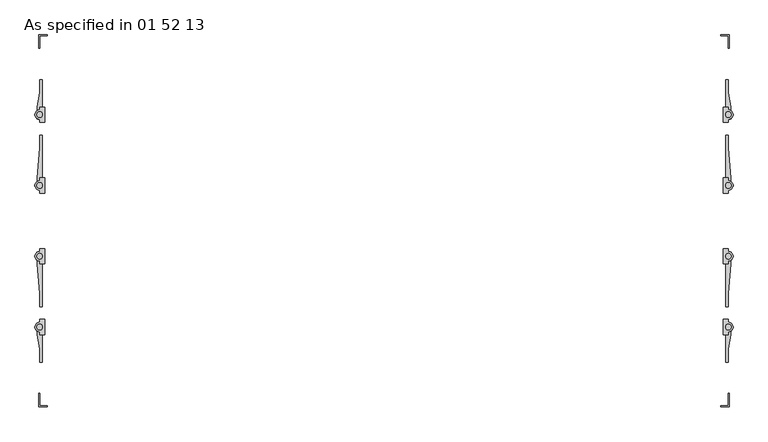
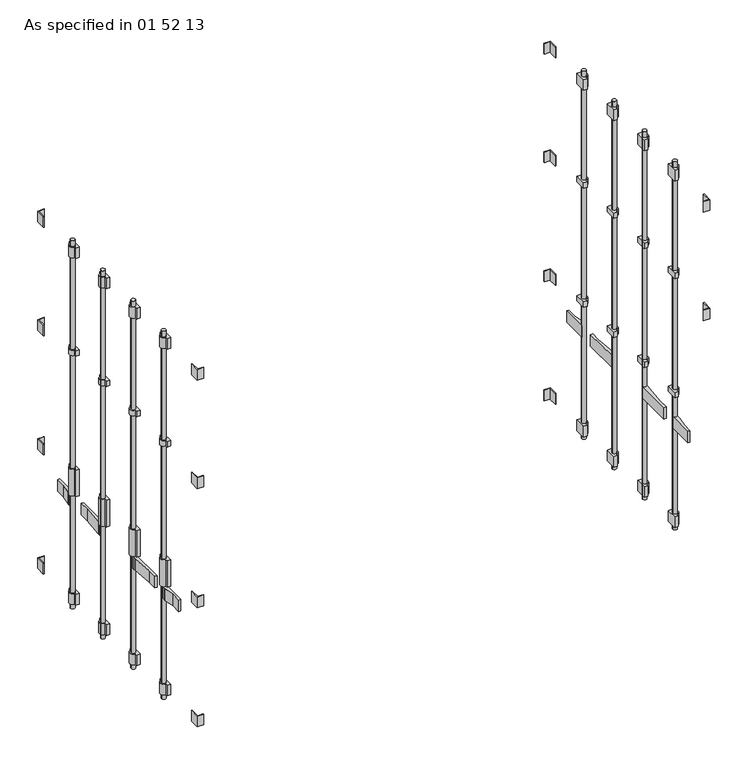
"""IFC4 building model written with IfcOpenShell, lengths in millimetres: proxy geometry, Conteneur de rangement : As specified in 01 52 13."""

from ifc_helpers import new_model, si_unit, point, frame, frame_2d, origin, place, context, project, spatial, polyline, circle_curve, trimmed, segment, composite_curve, outline, extrude, source, transform, mapped, element, save


def as_specified_in_01_52_13_0041e000(model_context):
    return source(origin(), model_context, "Body", "SweptSolid", [
        extrude(outline(polyline([(18745.0892185, 11825.6358114), (18745.0892185, 11590.6858114), (18711.1388358, 11590.6858114), (18711.1388358, 11622.4358114), (18711.1388358, 11642.658497), (18726.0392185, 11736.7358114), (18726.0392185, 11825.6358114), (18745.0892185, 11825.6358114)])), frame((0.0, 0.0, 1041.4), z_axis=(0.0, 0.0, 1.0), x_axis=(1.0, 0.0, 0.0)), (0.0, 0.0, 1.0), 110.0666667),
        extrude(outline(polyline([(18745.0892185, 11453.1024781), (18745.0892185, 11116.5524781), (18711.1388358, 11116.5524781), (18711.1388358, 11148.3024781), (18711.1388358, 11168.5251636), (18726.0392185, 11364.2024781), (18726.0392185, 11453.1024781), (18745.0892185, 11453.1024781)])), frame((0.0, 0.0, 1041.4), z_axis=(0.0, 0.0, 1.0), x_axis=(1.0, 0.0, 0.0)), (0.0, 0.0, 1.0), 110.0666667),
        extrude(outline(polyline([(18745.0892185, 9933.3358114), (18726.0392185, 9933.3358114), (18726.0392185, 10022.2358114), (18711.1388358, 10116.3131258), (18711.1388358, 10136.5358114), (18711.1388358, 10168.2858114), (18745.0892185, 10168.2858114), (18745.0892185, 9933.3358114)])), frame((0.0, 0.0, 1041.4), z_axis=(0.0, 0.0, 1.0), x_axis=(1.0, 0.0, 0.0)), (0.0, 0.0, 1.0), 110.0666667),
        extrude(outline(polyline([(18745.0892185, 10305.8691447), (18726.0392185, 10305.8691447), (18726.0392185, 10394.7691447), (18711.1388358, 10590.4464592), (18711.1388358, 10610.6691447), (18711.1388358, 10642.4191447), (18745.0892185, 10642.4191447), (18745.0892185, 10305.8691447)])), frame((0.0, 0.0, 1041.4), z_axis=(0.0, 0.0, 1.0), x_axis=(1.0, 0.0, 0.0)), (0.0, 0.0, 1.0), 110.0666667),
        extrude(outline(polyline([(23317.0892185, 11825.6358114), (23336.1392185, 11825.6358114), (23336.1392185, 11736.7358114), (23351.0396013, 11642.658497), (23351.0396013, 11622.4358114), (23351.0396013, 11590.6858114), (23317.0892185, 11590.6858114), (23317.0892185, 11825.6358114)])), frame((0.0, 0.0, 1041.4), z_axis=(0.0, 0.0, 1.0), x_axis=(1.0, 0.0, 0.0)), (0.0, 0.0, 1.0), 110.0666667),
        extrude(outline(polyline([(23317.0892185, 11453.1024781), (23336.1392185, 11453.1024781), (23336.1392185, 11364.2024781), (23351.0396013, 11168.5251636), (23351.0396013, 11148.3024781), (23351.0396013, 11116.5524781), (23317.0892185, 11116.5524781), (23317.0892185, 11453.1024781)])), frame((0.0, 0.0, 1041.4), z_axis=(0.0, 0.0, 1.0), x_axis=(1.0, 0.0, 0.0)), (0.0, 0.0, 1.0), 110.0666667),
        extrude(outline(polyline([(23317.0892185, 9933.3358114), (23317.0892185, 10168.2858114), (23351.0396013, 10168.2858114), (23351.0396013, 10136.5358114), (23351.0396013, 10116.3131258), (23336.1392185, 10022.2358114), (23336.1392185, 9933.3358114), (23317.0892185, 9933.3358114)])), frame((0.0, 0.0, 1041.4), z_axis=(0.0, 0.0, 1.0), x_axis=(1.0, 0.0, 0.0)), (0.0, 0.0, 1.0), 110.0666667),
        extrude(outline(polyline([(23317.0892185, 10305.8691447), (23317.0892185, 10642.4191447), (23351.0396013, 10642.4191447), (23351.0396013, 10610.6691447), (23351.0396013, 10590.4464592), (23336.1392185, 10394.7691447), (23336.1392185, 10305.8691447), (23317.0892185, 10305.8691447)])), frame((0.0, 0.0, 1041.4), z_axis=(0.0, 0.0, 1.0), x_axis=(1.0, 0.0, 0.0)), (0.0, 0.0, 1.0), 110.0666667),
        extrude(outline(composite_curve([segment(polyline([(23336.1392185, 11641.4858114), (23336.1392185, 11622.4358114)]), True, "CONTINUOUS"), segment(trimmed(circle_curve(frame_2d((23336.1392185, 11590.6858114)), 31.75), [point((23336.1392185, 11622.4358114))], [point((23336.1392185, 11558.9358114))], False, "CARTESIAN"), True, "CONTINUOUS"), segment(polyline([(23336.1392185, 11558.9358114), (23336.1392185, 11539.8858114), (23303.6188344, 11539.8858114), (23303.6188344, 11641.4858114), (23336.1392185, 11641.4858114)]), True, "CONTINUOUS")], self_intersect=False), holes=[composite_curve([segment(trimmed(circle_curve(frame_2d((23336.1392185, 11590.6858114)), 19.05), [point((23317.0892185, 11590.6858114))], [point((23355.1892185, 11590.6858114))], True, "CARTESIAN"), True, "CONTINUOUS"), segment(trimmed(circle_curve(frame_2d((23336.1392185, 11590.6858114)), 19.05), [point((23355.1892185, 11590.6858114))], [point((23317.0892185, 11590.6858114))], True, "CARTESIAN"), True, "CONTINUOUS")], self_intersect=False)]), frame((0.0, 0.0, 2497.6666667), z_axis=(0.0, 0.0, 1.0), x_axis=(1.0, 0.0, 0.0)), (0.0, 0.0, 1.0), 50.8),
        extrude(outline(composite_curve([segment(polyline([(23336.1392185, 11167.3524781), (23336.1392185, 11148.3024781)]), True, "CONTINUOUS"), segment(trimmed(circle_curve(frame_2d((23336.1392185, 11116.5524781)), 31.75), [point((23336.1392185, 11148.3024781))], [point((23336.1392185, 11084.8024781))], False, "CARTESIAN"), True, "CONTINUOUS"), segment(polyline([(23336.1392185, 11084.8024781), (23336.1392185, 11065.7524781), (23303.6188344, 11065.7524781), (23303.6188344, 11167.3524781), (23336.1392185, 11167.3524781)]), True, "CONTINUOUS")], self_intersect=False), holes=[composite_curve([segment(trimmed(circle_curve(frame_2d((23336.1392185, 11116.5524781)), 19.05), [point((23317.0892185, 11116.5524781))], [point((23355.1892185, 11116.5524781))], True, "CARTESIAN"), True, "CONTINUOUS"), segment(trimmed(circle_curve(frame_2d((23336.1392185, 11116.5524781)), 19.05), [point((23355.1892185, 11116.5524781))], [point((23317.0892185, 11116.5524781))], True, "CARTESIAN"), True, "CONTINUOUS")], self_intersect=False)]), frame((0.0, 0.0, 2497.6666667), z_axis=(0.0, 0.0, 1.0), x_axis=(1.0, 0.0, 0.0)), (0.0, 0.0, 1.0), 50.8),
        extrude(outline(composite_curve([segment(polyline([(23336.1392185, 10693.2191447), (23336.1392185, 10674.1691447)]), True, "CONTINUOUS"), segment(trimmed(circle_curve(frame_2d((23336.1392185, 10642.4191447)), 31.75), [point((23336.1392185, 10674.1691447))], [point((23336.1392185, 10610.6691447))], False, "CARTESIAN"), True, "CONTINUOUS"), segment(polyline([(23336.1392185, 10610.6691447), (23336.1392185, 10591.6191447), (23303.6188344, 10591.6191447), (23303.6188344, 10693.2191447), (23336.1392185, 10693.2191447)]), True, "CONTINUOUS")], self_intersect=False), holes=[composite_curve([segment(trimmed(circle_curve(frame_2d((23336.1392185, 10642.4191447)), 19.05), [point((23317.0892185, 10642.4191447))], [point((23355.1892185, 10642.4191447))], True, "CARTESIAN"), True, "CONTINUOUS"), segment(trimmed(circle_curve(frame_2d((23336.1392185, 10642.4191447)), 19.05), [point((23355.1892185, 10642.4191447))], [point((23317.0892185, 10642.4191447))], True, "CARTESIAN"), True, "CONTINUOUS")], self_intersect=False)]), frame((0.0, 0.0, 2497.6666667), z_axis=(0.0, 0.0, 1.0), x_axis=(1.0, 0.0, 0.0)), (0.0, 0.0, 1.0), 50.8),
        extrude(outline(composite_curve([segment(polyline([(23336.1392185, 10219.0858114), (23336.1392185, 10200.0358114)]), True, "CONTINUOUS"), segment(trimmed(circle_curve(frame_2d((23336.1392185, 10168.2858114)), 31.75), [point((23336.1392185, 10200.0358114))], [point((23336.1392185, 10136.5358114))], False, "CARTESIAN"), True, "CONTINUOUS"), segment(polyline([(23336.1392185, 10136.5358114), (23336.1392185, 10117.4858114), (23303.6188344, 10117.4858114), (23303.6188344, 10219.0858114), (23336.1392185, 10219.0858114)]), True, "CONTINUOUS")], self_intersect=False), holes=[composite_curve([segment(trimmed(circle_curve(frame_2d((23336.1392185, 10168.2858114)), 19.05), [point((23317.0892185, 10168.2858114))], [point((23355.1892185, 10168.2858114))], True, "CARTESIAN"), True, "CONTINUOUS"), segment(trimmed(circle_curve(frame_2d((23336.1392185, 10168.2858114)), 19.05), [point((23355.1892185, 10168.2858114))], [point((23317.0892185, 10168.2858114))], True, "CARTESIAN"), True, "CONTINUOUS")], self_intersect=False)]), frame((0.0, 0.0, 2497.6666667), z_axis=(0.0, 0.0, 1.0), x_axis=(1.0, 0.0, 0.0)), (0.0, 0.0, 1.0), 50.8),
        extrude(outline(composite_curve([segment(polyline([(23336.1392185, 11641.4858114), (23336.1392185, 11622.4358114)]), True, "CONTINUOUS"), segment(trimmed(circle_curve(frame_2d((23336.1392185, 11590.6858114)), 31.75), [point((23336.1392185, 11622.4358114))], [point((23336.1392185, 11558.9358114))], False, "CARTESIAN"), True, "CONTINUOUS"), segment(polyline([(23336.1392185, 11558.9358114), (23336.1392185, 11539.8858114), (23303.6188344, 11539.8858114), (23303.6188344, 11641.4858114), (23336.1392185, 11641.4858114)]), True, "CONTINUOUS")], self_intersect=False), holes=[composite_curve([segment(trimmed(circle_curve(frame_2d((23336.1392185, 11590.6858114)), 19.05), [point((23317.0892185, 11590.6858114))], [point((23355.1892185, 11590.6858114))], True, "CARTESIAN"), True, "CONTINUOUS"), segment(trimmed(circle_curve(frame_2d((23336.1392185, 11590.6858114)), 19.05), [point((23355.1892185, 11590.6858114))], [point((23317.0892185, 11590.6858114))], True, "CARTESIAN"), True, "CONTINUOUS")], self_intersect=False)]), frame((0.0, 0.0, 1363.1333333), z_axis=(0.0, 0.0, 1.0), x_axis=(1.0, 0.0, 0.0)), (0.0, 0.0, 1.0), 50.8),
        extrude(outline(composite_curve([segment(polyline([(23336.1392185, 11167.3524781), (23336.1392185, 11148.3024781)]), True, "CONTINUOUS"), segment(trimmed(circle_curve(frame_2d((23336.1392185, 11116.5524781)), 31.75), [point((23336.1392185, 11148.3024781))], [point((23336.1392185, 11084.8024781))], False, "CARTESIAN"), True, "CONTINUOUS"), segment(polyline([(23336.1392185, 11084.8024781), (23336.1392185, 11065.7524781), (23303.6188344, 11065.7524781), (23303.6188344, 11167.3524781), (23336.1392185, 11167.3524781)]), True, "CONTINUOUS")], self_intersect=False), holes=[composite_curve([segment(trimmed(circle_curve(frame_2d((23336.1392185, 11116.5524781)), 19.05), [point((23317.0892185, 11116.5524781))], [point((23355.1892185, 11116.5524781))], True, "CARTESIAN"), True, "CONTINUOUS"), segment(trimmed(circle_curve(frame_2d((23336.1392185, 11116.5524781)), 19.05), [point((23355.1892185, 11116.5524781))], [point((23317.0892185, 11116.5524781))], True, "CARTESIAN"), True, "CONTINUOUS")], self_intersect=False)]), frame((0.0, 0.0, 1363.1333333), z_axis=(0.0, 0.0, 1.0), x_axis=(1.0, 0.0, 0.0)), (0.0, 0.0, 1.0), 50.8),
        extrude(outline(composite_curve([segment(polyline([(23336.1392185, 10693.2191447), (23336.1392185, 10674.1691447)]), True, "CONTINUOUS"), segment(trimmed(circle_curve(frame_2d((23336.1392185, 10642.4191447)), 31.75), [point((23336.1392185, 10674.1691447))], [point((23336.1392185, 10610.6691447))], False, "CARTESIAN"), True, "CONTINUOUS"), segment(polyline([(23336.1392185, 10610.6691447), (23336.1392185, 10591.6191447), (23303.6188344, 10591.6191447), (23303.6188344, 10693.2191447), (23336.1392185, 10693.2191447)]), True, "CONTINUOUS")], self_intersect=False), holes=[composite_curve([segment(trimmed(circle_curve(frame_2d((23336.1392185, 10642.4191447)), 19.05), [point((23317.0892185, 10642.4191447))], [point((23355.1892185, 10642.4191447))], True, "CARTESIAN"), True, "CONTINUOUS"), segment(trimmed(circle_curve(frame_2d((23336.1392185, 10642.4191447)), 19.05), [point((23355.1892185, 10642.4191447))], [point((23317.0892185, 10642.4191447))], True, "CARTESIAN"), True, "CONTINUOUS")], self_intersect=False)]), frame((0.0, 0.0, 1363.1333333), z_axis=(0.0, 0.0, 1.0), x_axis=(1.0, 0.0, 0.0)), (0.0, 0.0, 1.0), 50.8),
        extrude(outline(composite_curve([segment(polyline([(23336.1392185, 10219.0858114), (23336.1392185, 10200.0358114)]), True, "CONTINUOUS"), segment(trimmed(circle_curve(frame_2d((23336.1392185, 10168.2858114)), 31.75), [point((23336.1392185, 10200.0358114))], [point((23336.1392185, 10136.5358114))], False, "CARTESIAN"), True, "CONTINUOUS"), segment(polyline([(23336.1392185, 10136.5358114), (23336.1392185, 10117.4858114), (23303.6188344, 10117.4858114), (23303.6188344, 10219.0858114), (23336.1392185, 10219.0858114)]), True, "CONTINUOUS")], self_intersect=False), holes=[composite_curve([segment(trimmed(circle_curve(frame_2d((23336.1392185, 10168.2858114)), 19.05), [point((23317.0892185, 10168.2858114))], [point((23355.1892185, 10168.2858114))], True, "CARTESIAN"), True, "CONTINUOUS"), segment(trimmed(circle_curve(frame_2d((23336.1392185, 10168.2858114)), 19.05), [point((23355.1892185, 10168.2858114))], [point((23317.0892185, 10168.2858114))], True, "CARTESIAN"), True, "CONTINUOUS")], self_intersect=False)]), frame((0.0, 0.0, 1363.1333333), z_axis=(0.0, 0.0, 1.0), x_axis=(1.0, 0.0, 0.0)), (0.0, 0.0, 1.0), 50.8),
        extrude(outline(composite_curve([segment(polyline([(18726.0392185, 11641.4858114), (18758.5596027, 11641.4858114), (18758.5596027, 11539.8858114), (18726.0392185, 11539.8858114), (18726.0392185, 11558.9358114)]), True, "CONTINUOUS"), segment(trimmed(circle_curve(frame_2d((18726.0392185, 11590.6858114)), 31.75), [point((18726.0392185, 11558.9358114))], [point((18726.0392185, 11622.4358114))], False, "CARTESIAN"), True, "CONTINUOUS"), segment(polyline([(18726.0392185, 11622.4358114), (18726.0392185, 11641.4858114)]), True, "CONTINUOUS")], self_intersect=False), holes=[composite_curve([segment(trimmed(circle_curve(frame_2d((18726.0392185, 11590.6858114)), 19.05), [point((18745.0892185, 11590.6858114))], [point((18706.9892185, 11590.6858114))], True, "CARTESIAN"), True, "CONTINUOUS"), segment(trimmed(circle_curve(frame_2d((18726.0392185, 11590.6858114)), 19.05), [point((18706.9892185, 11590.6858114))], [point((18745.0892185, 11590.6858114))], True, "CARTESIAN"), True, "CONTINUOUS")], self_intersect=False)]), frame((0.0, 0.0, 1159.9333333), z_axis=(0.0, 0.0, 1.0), x_axis=(1.0, 0.0, 0.0)), (0.0, 0.0, 1.0), 254.0),
        extrude(outline(composite_curve([segment(polyline([(18726.0392185, 11167.3524781), (18758.5596027, 11167.3524781), (18758.5596027, 11065.7524781), (18726.0392185, 11065.7524781), (18726.0392185, 11084.8024781)]), True, "CONTINUOUS"), segment(trimmed(circle_curve(frame_2d((18726.0392185, 11116.5524781)), 31.75), [point((18726.0392185, 11084.8024781))], [point((18726.0392185, 11148.3024781))], False, "CARTESIAN"), True, "CONTINUOUS"), segment(polyline([(18726.0392185, 11148.3024781), (18726.0392185, 11167.3524781)]), True, "CONTINUOUS")], self_intersect=False), holes=[composite_curve([segment(trimmed(circle_curve(frame_2d((18726.0392185, 11116.5524781)), 19.05), [point((18745.0892185, 11116.5524781))], [point((18706.9892185, 11116.5524781))], True, "CARTESIAN"), True, "CONTINUOUS"), segment(trimmed(circle_curve(frame_2d((18726.0392185, 11116.5524781)), 19.05), [point((18706.9892185, 11116.5524781))], [point((18745.0892185, 11116.5524781))], True, "CARTESIAN"), True, "CONTINUOUS")], self_intersect=False)]), frame((0.0, 0.0, 1159.9333333), z_axis=(0.0, 0.0, 1.0), x_axis=(1.0, 0.0, 0.0)), (0.0, 0.0, 1.0), 254.0),
        extrude(outline(composite_curve([segment(polyline([(18726.0392185, 10693.2191447), (18758.5596027, 10693.2191447), (18758.5596027, 10591.6191447), (18726.0392185, 10591.6191447), (18726.0392185, 10610.6691447)]), True, "CONTINUOUS"), segment(trimmed(circle_curve(frame_2d((18726.0392185, 10642.4191447)), 31.75), [point((18726.0392185, 10610.6691447))], [point((18726.0392185, 10674.1691447))], False, "CARTESIAN"), True, "CONTINUOUS"), segment(polyline([(18726.0392185, 10674.1691447), (18726.0392185, 10693.2191447)]), True, "CONTINUOUS")], self_intersect=False), holes=[composite_curve([segment(trimmed(circle_curve(frame_2d((18726.0392185, 10642.4191447)), 19.05), [point((18745.0892185, 10642.4191447))], [point((18706.9892185, 10642.4191447))], True, "CARTESIAN"), True, "CONTINUOUS"), segment(trimmed(circle_curve(frame_2d((18726.0392185, 10642.4191447)), 19.05), [point((18706.9892185, 10642.4191447))], [point((18745.0892185, 10642.4191447))], True, "CARTESIAN"), True, "CONTINUOUS")], self_intersect=False)]), frame((0.0, 0.0, 1159.9333333), z_axis=(0.0, 0.0, 1.0), x_axis=(1.0, 0.0, 0.0)), (0.0, 0.0, 1.0), 254.0),
        extrude(outline(composite_curve([segment(polyline([(18726.0392185, 10219.0858114), (18758.5596027, 10219.0858114), (18758.5596027, 10117.4858114), (18726.0392185, 10117.4858114), (18726.0392185, 10136.5358114)]), True, "CONTINUOUS"), segment(trimmed(circle_curve(frame_2d((18726.0392185, 10168.2858114)), 31.75), [point((18726.0392185, 10136.5358114))], [point((18726.0392185, 10200.0358114))], False, "CARTESIAN"), True, "CONTINUOUS"), segment(polyline([(18726.0392185, 10200.0358114), (18726.0392185, 10219.0858114)]), True, "CONTINUOUS")], self_intersect=False), holes=[composite_curve([segment(trimmed(circle_curve(frame_2d((18726.0392185, 10168.2858114)), 19.05), [point((18745.0892185, 10168.2858114))], [point((18706.9892185, 10168.2858114))], True, "CARTESIAN"), True, "CONTINUOUS"), segment(trimmed(circle_curve(frame_2d((18726.0392185, 10168.2858114)), 19.05), [point((18706.9892185, 10168.2858114))], [point((18745.0892185, 10168.2858114))], True, "CARTESIAN"), True, "CONTINUOUS")], self_intersect=False)]), frame((0.0, 0.0, 1159.9333333), z_axis=(0.0, 0.0, 1.0), x_axis=(1.0, 0.0, 0.0)), (0.0, 0.0, 1.0), 254.0),
        extrude(outline(composite_curve([segment(polyline([(18726.0392185, 11641.4858114), (18758.5596027, 11641.4858114), (18758.5596027, 11539.8858114), (18726.0392185, 11539.8858114), (18726.0392185, 11558.9358114)]), True, "CONTINUOUS"), segment(trimmed(circle_curve(frame_2d((18726.0392185, 11590.6858114)), 31.75), [point((18726.0392185, 11558.9358114))], [point((18726.0392185, 11622.4358114))], False, "CARTESIAN"), True, "CONTINUOUS"), segment(polyline([(18726.0392185, 11622.4358114), (18726.0392185, 11641.4858114)]), True, "CONTINUOUS")], self_intersect=False), holes=[composite_curve([segment(trimmed(circle_curve(frame_2d((18726.0392185, 11590.6858114)), 19.05), [point((18745.0892185, 11590.6858114))], [point((18706.9892185, 11590.6858114))], True, "CARTESIAN"), True, "CONTINUOUS"), segment(trimmed(circle_curve(frame_2d((18726.0392185, 11590.6858114)), 19.05), [point((18706.9892185, 11590.6858114))], [point((18745.0892185, 11590.6858114))], True, "CARTESIAN"), True, "CONTINUOUS")], self_intersect=False)]), frame((0.0, 0.0, 2497.6666667), z_axis=(0.0, 0.0, 1.0), x_axis=(1.0, 0.0, 0.0)), (0.0, 0.0, 1.0), 50.8),
        extrude(outline(composite_curve([segment(polyline([(18726.0392185, 11167.3524781), (18758.5596027, 11167.3524781), (18758.5596027, 11065.7524781), (18726.0392185, 11065.7524781), (18726.0392185, 11084.8024781)]), True, "CONTINUOUS"), segment(trimmed(circle_curve(frame_2d((18726.0392185, 11116.5524781)), 31.75), [point((18726.0392185, 11084.8024781))], [point((18726.0392185, 11148.3024781))], False, "CARTESIAN"), True, "CONTINUOUS"), segment(polyline([(18726.0392185, 11148.3024781), (18726.0392185, 11167.3524781)]), True, "CONTINUOUS")], self_intersect=False), holes=[composite_curve([segment(trimmed(circle_curve(frame_2d((18726.0392185, 11116.5524781)), 19.05), [point((18745.0892185, 11116.5524781))], [point((18706.9892185, 11116.5524781))], True, "CARTESIAN"), True, "CONTINUOUS"), segment(trimmed(circle_curve(frame_2d((18726.0392185, 11116.5524781)), 19.05), [point((18706.9892185, 11116.5524781))], [point((18745.0892185, 11116.5524781))], True, "CARTESIAN"), True, "CONTINUOUS")], self_intersect=False)]), frame((0.0, 0.0, 2497.6666667), z_axis=(0.0, 0.0, 1.0), x_axis=(1.0, 0.0, 0.0)), (0.0, 0.0, 1.0), 50.8),
        extrude(outline(composite_curve([segment(polyline([(18726.0392185, 10693.2191447), (18758.5596027, 10693.2191447), (18758.5596027, 10591.6191447), (18726.0392185, 10591.6191447), (18726.0392185, 10610.6691447)]), True, "CONTINUOUS"), segment(trimmed(circle_curve(frame_2d((18726.0392185, 10642.4191447)), 31.75), [point((18726.0392185, 10610.6691447))], [point((18726.0392185, 10674.1691447))], False, "CARTESIAN"), True, "CONTINUOUS"), segment(polyline([(18726.0392185, 10674.1691447), (18726.0392185, 10693.2191447)]), True, "CONTINUOUS")], self_intersect=False), holes=[composite_curve([segment(trimmed(circle_curve(frame_2d((18726.0392185, 10642.4191447)), 19.05), [point((18745.0892185, 10642.4191447))], [point((18706.9892185, 10642.4191447))], True, "CARTESIAN"), True, "CONTINUOUS"), segment(trimmed(circle_curve(frame_2d((18726.0392185, 10642.4191447)), 19.05), [point((18706.9892185, 10642.4191447))], [point((18745.0892185, 10642.4191447))], True, "CARTESIAN"), True, "CONTINUOUS")], self_intersect=False)]), frame((0.0, 0.0, 2497.6666667), z_axis=(0.0, 0.0, 1.0), x_axis=(1.0, 0.0, 0.0)), (0.0, 0.0, 1.0), 50.8),
        extrude(outline(composite_curve([segment(polyline([(18726.0392185, 10219.0858114), (18758.5596027, 10219.0858114), (18758.5596027, 10117.4858114), (18726.0392185, 10117.4858114), (18726.0392185, 10136.5358114)]), True, "CONTINUOUS"), segment(trimmed(circle_curve(frame_2d((18726.0392185, 10168.2858114)), 31.75), [point((18726.0392185, 10136.5358114))], [point((18726.0392185, 10200.0358114))], False, "CARTESIAN"), True, "CONTINUOUS"), segment(polyline([(18726.0392185, 10200.0358114), (18726.0392185, 10219.0858114)]), True, "CONTINUOUS")], self_intersect=False), holes=[composite_curve([segment(trimmed(circle_curve(frame_2d((18726.0392185, 10168.2858114)), 19.05), [point((18745.0892185, 10168.2858114))], [point((18706.9892185, 10168.2858114))], True, "CARTESIAN"), True, "CONTINUOUS"), segment(trimmed(circle_curve(frame_2d((18726.0392185, 10168.2858114)), 19.05), [point((18706.9892185, 10168.2858114))], [point((18745.0892185, 10168.2858114))], True, "CARTESIAN"), True, "CONTINUOUS")], self_intersect=False)]), frame((0.0, 0.0, 2497.6666667), z_axis=(0.0, 0.0, 1.0), x_axis=(1.0, 0.0, 0.0)), (0.0, 0.0, 1.0), 50.8),
        extrude(outline(composite_curve([segment(polyline([(18726.0392185, 11641.4858114), (18758.5596027, 11641.4858114), (18758.5596027, 11539.8858114), (18726.0392185, 11539.8858114), (18726.0392185, 11558.9358114)]), True, "CONTINUOUS"), segment(trimmed(circle_curve(frame_2d((18726.0392185, 11590.6858114)), 31.75), [point((18726.0392185, 11558.9358114))], [point((18726.0392185, 11622.4358114))], False, "CARTESIAN"), True, "CONTINUOUS"), segment(polyline([(18726.0392185, 11622.4358114), (18726.0392185, 11641.4858114)]), True, "CONTINUOUS")], self_intersect=False), holes=[composite_curve([segment(trimmed(circle_curve(frame_2d((18726.0392185, 11590.6858114)), 19.05), [point((18745.0892185, 11590.6858114))], [point((18706.9892185, 11590.6858114))], True, "CARTESIAN"), True, "CONTINUOUS"), segment(trimmed(circle_curve(frame_2d((18726.0392185, 11590.6858114)), 19.05), [point((18706.9892185, 11590.6858114))], [point((18745.0892185, 11590.6858114))], True, "CARTESIAN"), True, "CONTINUOUS")], self_intersect=False)]), frame((0.0, 0.0, 3429.0), z_axis=(0.0, 0.0, 1.0), x_axis=(1.0, 0.0, 0.0)), (0.0, 0.0, 1.0), 101.6),
        extrude(outline(composite_curve([segment(polyline([(18726.0392185, 11167.3524781), (18758.5596027, 11167.3524781), (18758.5596027, 11065.7524781), (18726.0392185, 11065.7524781), (18726.0392185, 11084.8024781)]), True, "CONTINUOUS"), segment(trimmed(circle_curve(frame_2d((18726.0392185, 11116.5524781)), 31.75), [point((18726.0392185, 11084.8024781))], [point((18726.0392185, 11148.3024781))], False, "CARTESIAN"), True, "CONTINUOUS"), segment(polyline([(18726.0392185, 11148.3024781), (18726.0392185, 11167.3524781)]), True, "CONTINUOUS")], self_intersect=False), holes=[composite_curve([segment(trimmed(circle_curve(frame_2d((18726.0392185, 11116.5524781)), 19.05), [point((18745.0892185, 11116.5524781))], [point((18706.9892185, 11116.5524781))], True, "CARTESIAN"), True, "CONTINUOUS"), segment(trimmed(circle_curve(frame_2d((18726.0392185, 11116.5524781)), 19.05), [point((18706.9892185, 11116.5524781))], [point((18745.0892185, 11116.5524781))], True, "CARTESIAN"), True, "CONTINUOUS")], self_intersect=False)]), frame((0.0, 0.0, 3429.0), z_axis=(0.0, 0.0, 1.0), x_axis=(1.0, 0.0, 0.0)), (0.0, 0.0, 1.0), 101.6),
        extrude(outline(composite_curve([segment(polyline([(18726.0392185, 10693.2191447), (18758.5596027, 10693.2191447), (18758.5596027, 10591.6191447), (18726.0392185, 10591.6191447), (18726.0392185, 10610.6691447)]), True, "CONTINUOUS"), segment(trimmed(circle_curve(frame_2d((18726.0392185, 10642.4191447)), 31.75), [point((18726.0392185, 10610.6691447))], [point((18726.0392185, 10674.1691447))], False, "CARTESIAN"), True, "CONTINUOUS"), segment(polyline([(18726.0392185, 10674.1691447), (18726.0392185, 10693.2191447)]), True, "CONTINUOUS")], self_intersect=False), holes=[composite_curve([segment(trimmed(circle_curve(frame_2d((18726.0392185, 10642.4191447)), 19.05), [point((18745.0892185, 10642.4191447))], [point((18706.9892185, 10642.4191447))], True, "CARTESIAN"), True, "CONTINUOUS"), segment(trimmed(circle_curve(frame_2d((18726.0392185, 10642.4191447)), 19.05), [point((18706.9892185, 10642.4191447))], [point((18745.0892185, 10642.4191447))], True, "CARTESIAN"), True, "CONTINUOUS")], self_intersect=False)]), frame((0.0, 0.0, 3429.0), z_axis=(0.0, 0.0, 1.0), x_axis=(1.0, 0.0, 0.0)), (0.0, 0.0, 1.0), 101.6),
        extrude(outline(composite_curve([segment(polyline([(18726.0392185, 10219.0858114), (18758.5596027, 10219.0858114), (18758.5596027, 10117.4858114), (18726.0392185, 10117.4858114), (18726.0392185, 10136.5358114)]), True, "CONTINUOUS"), segment(trimmed(circle_curve(frame_2d((18726.0392185, 10168.2858114)), 31.75), [point((18726.0392185, 10136.5358114))], [point((18726.0392185, 10200.0358114))], False, "CARTESIAN"), True, "CONTINUOUS"), segment(polyline([(18726.0392185, 10200.0358114), (18726.0392185, 10219.0858114)]), True, "CONTINUOUS")], self_intersect=False), holes=[composite_curve([segment(trimmed(circle_curve(frame_2d((18726.0392185, 10168.2858114)), 19.05), [point((18745.0892185, 10168.2858114))], [point((18706.9892185, 10168.2858114))], True, "CARTESIAN"), True, "CONTINUOUS"), segment(trimmed(circle_curve(frame_2d((18726.0392185, 10168.2858114)), 19.05), [point((18706.9892185, 10168.2858114))], [point((18745.0892185, 10168.2858114))], True, "CARTESIAN"), True, "CONTINUOUS")], self_intersect=False)]), frame((0.0, 0.0, 3429.0), z_axis=(0.0, 0.0, 1.0), x_axis=(1.0, 0.0, 0.0)), (0.0, 0.0, 1.0), 101.6),
        extrude(outline(composite_curve([segment(polyline([(18726.0392185, 11641.4858114), (18758.5596027, 11641.4858114), (18758.5596027, 11539.8858114), (18726.0392185, 11539.8858114), (18726.0392185, 11558.9358114)]), True, "CONTINUOUS"), segment(trimmed(circle_curve(frame_2d((18726.0392185, 11590.6858114)), 31.75), [point((18726.0392185, 11558.9358114))], [point((18726.0392185, 11622.4358114))], False, "CARTESIAN"), True, "CONTINUOUS"), segment(polyline([(18726.0392185, 11622.4358114), (18726.0392185, 11641.4858114)]), True, "CONTINUOUS")], self_intersect=False), holes=[composite_curve([segment(trimmed(circle_curve(frame_2d((18726.0392185, 11590.6858114)), 19.05), [point((18745.0892185, 11590.6858114))], [point((18706.9892185, 11590.6858114))], True, "CARTESIAN"), True, "CONTINUOUS"), segment(trimmed(circle_curve(frame_2d((18726.0392185, 11590.6858114)), 19.05), [point((18706.9892185, 11590.6858114))], [point((18745.0892185, 11590.6858114))], True, "CARTESIAN"), True, "CONTINUOUS")], self_intersect=False)]), frame((0.0, 0.0, 127.0), z_axis=(0.0, 0.0, 1.0), x_axis=(1.0, 0.0, 0.0)), (0.0, 0.0, 1.0), 101.6),
        extrude(outline(composite_curve([segment(polyline([(18726.0392185, 11167.3524781), (18758.5596027, 11167.3524781), (18758.5596027, 11065.7524781), (18726.0392185, 11065.7524781), (18726.0392185, 11084.8024781)]), True, "CONTINUOUS"), segment(trimmed(circle_curve(frame_2d((18726.0392185, 11116.5524781)), 31.75), [point((18726.0392185, 11084.8024781))], [point((18726.0392185, 11148.3024781))], False, "CARTESIAN"), True, "CONTINUOUS"), segment(polyline([(18726.0392185, 11148.3024781), (18726.0392185, 11167.3524781)]), True, "CONTINUOUS")], self_intersect=False), holes=[composite_curve([segment(trimmed(circle_curve(frame_2d((18726.0392185, 11116.5524781)), 19.05), [point((18745.0892185, 11116.5524781))], [point((18706.9892185, 11116.5524781))], True, "CARTESIAN"), True, "CONTINUOUS"), segment(trimmed(circle_curve(frame_2d((18726.0392185, 11116.5524781)), 19.05), [point((18706.9892185, 11116.5524781))], [point((18745.0892185, 11116.5524781))], True, "CARTESIAN"), True, "CONTINUOUS")], self_intersect=False)]), frame((0.0, 0.0, 127.0), z_axis=(0.0, 0.0, 1.0), x_axis=(1.0, 0.0, 0.0)), (0.0, 0.0, 1.0), 101.6),
        extrude(outline(composite_curve([segment(polyline([(18726.0392185, 10693.2191447), (18758.5596027, 10693.2191447), (18758.5596027, 10591.6191447), (18726.0392185, 10591.6191447), (18726.0392185, 10610.6691447)]), True, "CONTINUOUS"), segment(trimmed(circle_curve(frame_2d((18726.0392185, 10642.4191447)), 31.75), [point((18726.0392185, 10610.6691447))], [point((18726.0392185, 10674.1691447))], False, "CARTESIAN"), True, "CONTINUOUS"), segment(polyline([(18726.0392185, 10674.1691447), (18726.0392185, 10693.2191447)]), True, "CONTINUOUS")], self_intersect=False), holes=[composite_curve([segment(trimmed(circle_curve(frame_2d((18726.0392185, 10642.4191447)), 19.05), [point((18745.0892185, 10642.4191447))], [point((18706.9892185, 10642.4191447))], True, "CARTESIAN"), True, "CONTINUOUS"), segment(trimmed(circle_curve(frame_2d((18726.0392185, 10642.4191447)), 19.05), [point((18706.9892185, 10642.4191447))], [point((18745.0892185, 10642.4191447))], True, "CARTESIAN"), True, "CONTINUOUS")], self_intersect=False)]), frame((0.0, 0.0, 127.0), z_axis=(0.0, 0.0, 1.0), x_axis=(1.0, 0.0, 0.0)), (0.0, 0.0, 1.0), 101.6),
        extrude(outline(composite_curve([segment(polyline([(18726.0392185, 10219.0858114), (18758.5596027, 10219.0858114), (18758.5596027, 10117.4858114), (18726.0392185, 10117.4858114), (18726.0392185, 10136.5358114)]), True, "CONTINUOUS"), segment(trimmed(circle_curve(frame_2d((18726.0392185, 10168.2858114)), 31.75), [point((18726.0392185, 10136.5358114))], [point((18726.0392185, 10200.0358114))], False, "CARTESIAN"), True, "CONTINUOUS"), segment(polyline([(18726.0392185, 10200.0358114), (18726.0392185, 10219.0858114)]), True, "CONTINUOUS")], self_intersect=False), holes=[composite_curve([segment(trimmed(circle_curve(frame_2d((18726.0392185, 10168.2858114)), 19.05), [point((18745.0892185, 10168.2858114))], [point((18706.9892185, 10168.2858114))], True, "CARTESIAN"), True, "CONTINUOUS"), segment(trimmed(circle_curve(frame_2d((18726.0392185, 10168.2858114)), 19.05), [point((18706.9892185, 10168.2858114))], [point((18745.0892185, 10168.2858114))], True, "CARTESIAN"), True, "CONTINUOUS")], self_intersect=False)]), frame((0.0, 0.0, 127.0), z_axis=(0.0, 0.0, 1.0), x_axis=(1.0, 0.0, 0.0)), (0.0, 0.0, 1.0), 101.6),
        extrude(outline(composite_curve([segment(polyline([(23336.1392185, 11641.4858114), (23336.1392185, 11622.4358114)]), True, "CONTINUOUS"), segment(trimmed(circle_curve(frame_2d((23336.1392185, 11590.6858114)), 31.75), [point((23336.1392185, 11622.4358114))], [point((23336.1392185, 11558.9358114))], False, "CARTESIAN"), True, "CONTINUOUS"), segment(polyline([(23336.1392185, 11558.9358114), (23336.1392185, 11539.8858114), (23303.6188344, 11539.8858114), (23303.6188344, 11641.4858114), (23336.1392185, 11641.4858114)]), True, "CONTINUOUS")], self_intersect=False), holes=[composite_curve([segment(trimmed(circle_curve(frame_2d((23336.1392185, 11590.6858114)), 19.05), [point((23317.0892185, 11590.6858114))], [point((23355.1892185, 11590.6858114))], True, "CARTESIAN"), True, "CONTINUOUS"), segment(trimmed(circle_curve(frame_2d((23336.1392185, 11590.6858114)), 19.05), [point((23355.1892185, 11590.6858114))], [point((23317.0892185, 11590.6858114))], True, "CARTESIAN"), True, "CONTINUOUS")], self_intersect=False)]), frame((0.0, 0.0, 3429.0), z_axis=(0.0, 0.0, 1.0), x_axis=(1.0, 0.0, 0.0)), (0.0, 0.0, 1.0), 101.6),
        extrude(outline(composite_curve([segment(polyline([(23336.1392185, 11167.3524781), (23336.1392185, 11148.3024781)]), True, "CONTINUOUS"), segment(trimmed(circle_curve(frame_2d((23336.1392185, 11116.5524781)), 31.75), [point((23336.1392185, 11148.3024781))], [point((23336.1392185, 11084.8024781))], False, "CARTESIAN"), True, "CONTINUOUS"), segment(polyline([(23336.1392185, 11084.8024781), (23336.1392185, 11065.7524781), (23303.6188344, 11065.7524781), (23303.6188344, 11167.3524781), (23336.1392185, 11167.3524781)]), True, "CONTINUOUS")], self_intersect=False), holes=[composite_curve([segment(trimmed(circle_curve(frame_2d((23336.1392185, 11116.5524781)), 19.05), [point((23317.0892185, 11116.5524781))], [point((23355.1892185, 11116.5524781))], True, "CARTESIAN"), True, "CONTINUOUS"), segment(trimmed(circle_curve(frame_2d((23336.1392185, 11116.5524781)), 19.05), [point((23355.1892185, 11116.5524781))], [point((23317.0892185, 11116.5524781))], True, "CARTESIAN"), True, "CONTINUOUS")], self_intersect=False)]), frame((0.0, 0.0, 3429.0), z_axis=(0.0, 0.0, 1.0), x_axis=(1.0, 0.0, 0.0)), (0.0, 0.0, 1.0), 101.6),
        extrude(outline(composite_curve([segment(polyline([(23336.1392185, 10693.2191447), (23336.1392185, 10674.1691447)]), True, "CONTINUOUS"), segment(trimmed(circle_curve(frame_2d((23336.1392185, 10642.4191447)), 31.75), [point((23336.1392185, 10674.1691447))], [point((23336.1392185, 10610.6691447))], False, "CARTESIAN"), True, "CONTINUOUS"), segment(polyline([(23336.1392185, 10610.6691447), (23336.1392185, 10591.6191447), (23303.6188344, 10591.6191447), (23303.6188344, 10693.2191447), (23336.1392185, 10693.2191447)]), True, "CONTINUOUS")], self_intersect=False), holes=[composite_curve([segment(trimmed(circle_curve(frame_2d((23336.1392185, 10642.4191447)), 19.05), [point((23317.0892185, 10642.4191447))], [point((23355.1892185, 10642.4191447))], True, "CARTESIAN"), True, "CONTINUOUS"), segment(trimmed(circle_curve(frame_2d((23336.1392185, 10642.4191447)), 19.05), [point((23355.1892185, 10642.4191447))], [point((23317.0892185, 10642.4191447))], True, "CARTESIAN"), True, "CONTINUOUS")], self_intersect=False)]), frame((0.0, 0.0, 3429.0), z_axis=(0.0, 0.0, 1.0), x_axis=(1.0, 0.0, 0.0)), (0.0, 0.0, 1.0), 101.6),
        extrude(outline(composite_curve([segment(polyline([(23336.1392185, 10219.0858114), (23336.1392185, 10200.0358114)]), True, "CONTINUOUS"), segment(trimmed(circle_curve(frame_2d((23336.1392185, 10168.2858114)), 31.75), [point((23336.1392185, 10200.0358114))], [point((23336.1392185, 10136.5358114))], False, "CARTESIAN"), True, "CONTINUOUS"), segment(polyline([(23336.1392185, 10136.5358114), (23336.1392185, 10117.4858114), (23303.6188344, 10117.4858114), (23303.6188344, 10219.0858114), (23336.1392185, 10219.0858114)]), True, "CONTINUOUS")], self_intersect=False), holes=[composite_curve([segment(trimmed(circle_curve(frame_2d((23336.1392185, 10168.2858114)), 19.05), [point((23317.0892185, 10168.2858114))], [point((23355.1892185, 10168.2858114))], True, "CARTESIAN"), True, "CONTINUOUS"), segment(trimmed(circle_curve(frame_2d((23336.1392185, 10168.2858114)), 19.05), [point((23355.1892185, 10168.2858114))], [point((23317.0892185, 10168.2858114))], True, "CARTESIAN"), True, "CONTINUOUS")], self_intersect=False)]), frame((0.0, 0.0, 3429.0), z_axis=(0.0, 0.0, 1.0), x_axis=(1.0, 0.0, 0.0)), (0.0, 0.0, 1.0), 101.6),
        extrude(outline(composite_curve([segment(polyline([(23336.1392185, 11641.4858114), (23336.1392185, 11622.4358114)]), True, "CONTINUOUS"), segment(trimmed(circle_curve(frame_2d((23336.1392185, 11590.6858114)), 31.75), [point((23336.1392185, 11622.4358114))], [point((23336.1392185, 11558.9358114))], False, "CARTESIAN"), True, "CONTINUOUS"), segment(polyline([(23336.1392185, 11558.9358114), (23336.1392185, 11539.8858114), (23303.6188344, 11539.8858114), (23303.6188344, 11641.4858114), (23336.1392185, 11641.4858114)]), True, "CONTINUOUS")], self_intersect=False), holes=[composite_curve([segment(trimmed(circle_curve(frame_2d((23336.1392185, 11590.6858114)), 19.05), [point((23317.0892185, 11590.6858114))], [point((23355.1892185, 11590.6858114))], True, "CARTESIAN"), True, "CONTINUOUS"), segment(trimmed(circle_curve(frame_2d((23336.1392185, 11590.6858114)), 19.05), [point((23355.1892185, 11590.6858114))], [point((23317.0892185, 11590.6858114))], True, "CARTESIAN"), True, "CONTINUOUS")], self_intersect=False)]), frame((0.0, 0.0, 127.0), z_axis=(0.0, 0.0, 1.0), x_axis=(1.0, 0.0, 0.0)), (0.0, 0.0, 1.0), 101.6),
        extrude(outline(composite_curve([segment(polyline([(23336.1392185, 11167.3524781), (23336.1392185, 11148.3024781)]), True, "CONTINUOUS"), segment(trimmed(circle_curve(frame_2d((23336.1392185, 11116.5524781)), 31.75), [point((23336.1392185, 11148.3024781))], [point((23336.1392185, 11084.8024781))], False, "CARTESIAN"), True, "CONTINUOUS"), segment(polyline([(23336.1392185, 11084.8024781), (23336.1392185, 11065.7524781), (23303.6188344, 11065.7524781), (23303.6188344, 11167.3524781), (23336.1392185, 11167.3524781)]), True, "CONTINUOUS")], self_intersect=False), holes=[composite_curve([segment(trimmed(circle_curve(frame_2d((23336.1392185, 11116.5524781)), 19.05), [point((23317.0892185, 11116.5524781))], [point((23355.1892185, 11116.5524781))], True, "CARTESIAN"), True, "CONTINUOUS"), segment(trimmed(circle_curve(frame_2d((23336.1392185, 11116.5524781)), 19.05), [point((23355.1892185, 11116.5524781))], [point((23317.0892185, 11116.5524781))], True, "CARTESIAN"), True, "CONTINUOUS")], self_intersect=False)]), frame((0.0, 0.0, 127.0), z_axis=(0.0, 0.0, 1.0), x_axis=(1.0, 0.0, 0.0)), (0.0, 0.0, 1.0), 101.6),
        extrude(outline(composite_curve([segment(polyline([(23336.1392185, 10693.2191447), (23336.1392185, 10674.1691447)]), True, "CONTINUOUS"), segment(trimmed(circle_curve(frame_2d((23336.1392185, 10642.4191447)), 31.75), [point((23336.1392185, 10674.1691447))], [point((23336.1392185, 10610.6691447))], False, "CARTESIAN"), True, "CONTINUOUS"), segment(polyline([(23336.1392185, 10610.6691447), (23336.1392185, 10591.6191447), (23303.6188344, 10591.6191447), (23303.6188344, 10693.2191447), (23336.1392185, 10693.2191447)]), True, "CONTINUOUS")], self_intersect=False), holes=[composite_curve([segment(trimmed(circle_curve(frame_2d((23336.1392185, 10642.4191447)), 19.05), [point((23317.0892185, 10642.4191447))], [point((23355.1892185, 10642.4191447))], True, "CARTESIAN"), True, "CONTINUOUS"), segment(trimmed(circle_curve(frame_2d((23336.1392185, 10642.4191447)), 19.05), [point((23355.1892185, 10642.4191447))], [point((23317.0892185, 10642.4191447))], True, "CARTESIAN"), True, "CONTINUOUS")], self_intersect=False)]), frame((0.0, 0.0, 127.0), z_axis=(0.0, 0.0, 1.0), x_axis=(1.0, 0.0, 0.0)), (0.0, 0.0, 1.0), 101.6),
        extrude(outline(composite_curve([segment(polyline([(23336.1392185, 10219.0858114), (23336.1392185, 10200.0358114)]), True, "CONTINUOUS"), segment(trimmed(circle_curve(frame_2d((23336.1392185, 10168.2858114)), 31.75), [point((23336.1392185, 10200.0358114))], [point((23336.1392185, 10136.5358114))], False, "CARTESIAN"), True, "CONTINUOUS"), segment(polyline([(23336.1392185, 10136.5358114), (23336.1392185, 10117.4858114), (23303.6188344, 10117.4858114), (23303.6188344, 10219.0858114), (23336.1392185, 10219.0858114)]), True, "CONTINUOUS")], self_intersect=False), holes=[composite_curve([segment(trimmed(circle_curve(frame_2d((23336.1392185, 10168.2858114)), 19.05), [point((23317.0892185, 10168.2858114))], [point((23355.1892185, 10168.2858114))], True, "CARTESIAN"), True, "CONTINUOUS"), segment(trimmed(circle_curve(frame_2d((23336.1392185, 10168.2858114)), 19.05), [point((23355.1892185, 10168.2858114))], [point((23317.0892185, 10168.2858114))], True, "CARTESIAN"), True, "CONTINUOUS")], self_intersect=False)]), frame((0.0, 0.0, 127.0), z_axis=(0.0, 0.0, 1.0), x_axis=(1.0, 0.0, 0.0)), (0.0, 0.0, 1.0), 101.6),
        extrude(outline(composite_curve([segment(trimmed(circle_curve(frame_2d((18726.0392185, 10642.4191447)), 19.05), [point((18745.0892185, 10642.4191447))], [point((18706.9892185, 10642.4191447))], False, "CARTESIAN"), True, "CONTINUOUS"), segment(trimmed(circle_curve(frame_2d((18726.0392185, 10642.4191447)), 19.05), [point((18706.9892185, 10642.4191447))], [point((18745.0892185, 10642.4191447))], False, "CARTESIAN"), True, "CONTINUOUS")], self_intersect=False)), frame((0.0, 0.0, 76.2), z_axis=(0.0, 0.0, 1.0), x_axis=(1.0, 0.0, 0.0)), (0.0, 0.0, 1.0), 3505.2),
        extrude(outline(composite_curve([segment(trimmed(circle_curve(frame_2d((18726.0392185, 10168.2858114)), 19.05), [point((18745.0892185, 10168.2858114))], [point((18706.9892185, 10168.2858114))], False, "CARTESIAN"), True, "CONTINUOUS"), segment(trimmed(circle_curve(frame_2d((18726.0392185, 10168.2858114)), 19.05), [point((18706.9892185, 10168.2858114))], [point((18745.0892185, 10168.2858114))], False, "CARTESIAN"), True, "CONTINUOUS")], self_intersect=False)), frame((0.0, 0.0, 76.2), z_axis=(0.0, 0.0, 1.0), x_axis=(1.0, 0.0, 0.0)), (0.0, 0.0, 1.0), 3505.2),
        extrude(outline(composite_curve([segment(trimmed(circle_curve(frame_2d((18726.0392185, 11116.5524781)), 19.05), [point((18745.0892185, 11116.5524781))], [point((18706.9892185, 11116.5524781))], False, "CARTESIAN"), True, "CONTINUOUS"), segment(trimmed(circle_curve(frame_2d((18726.0392185, 11116.5524781)), 19.05), [point((18706.9892185, 11116.5524781))], [point((18745.0892185, 11116.5524781))], False, "CARTESIAN"), True, "CONTINUOUS")], self_intersect=False)), frame((0.0, 0.0, 76.2), z_axis=(0.0, 0.0, 1.0), x_axis=(1.0, 0.0, 0.0)), (0.0, 0.0, 1.0), 3505.2),
        extrude(outline(composite_curve([segment(trimmed(circle_curve(frame_2d((18726.0392185, 11590.6858114)), 19.05), [point((18745.0892185, 11590.6858114))], [point((18706.9892185, 11590.6858114))], False, "CARTESIAN"), True, "CONTINUOUS"), segment(trimmed(circle_curve(frame_2d((18726.0392185, 11590.6858114)), 19.05), [point((18706.9892185, 11590.6858114))], [point((18745.0892185, 11590.6858114))], False, "CARTESIAN"), True, "CONTINUOUS")], self_intersect=False)), frame((0.0, 0.0, 76.2), z_axis=(0.0, 0.0, 1.0), x_axis=(1.0, 0.0, 0.0)), (0.0, 0.0, 1.0), 3505.2),
        extrude(outline(composite_curve([segment(trimmed(circle_curve(frame_2d((23336.1392185, 10642.4191447)), 19.05), [point((23317.0892185, 10642.4191447))], [point((23355.1892185, 10642.4191447))], False, "CARTESIAN"), True, "CONTINUOUS"), segment(trimmed(circle_curve(frame_2d((23336.1392185, 10642.4191447)), 19.05), [point((23355.1892185, 10642.4191447))], [point((23317.0892185, 10642.4191447))], False, "CARTESIAN"), True, "CONTINUOUS")], self_intersect=False)), frame((0.0, 0.0, 76.2), z_axis=(0.0, 0.0, 1.0), x_axis=(1.0, 0.0, 0.0)), (0.0, 0.0, 1.0), 3505.2),
        extrude(outline(composite_curve([segment(trimmed(circle_curve(frame_2d((23336.1392185, 10168.2858114)), 19.05), [point((23317.0892185, 10168.2858114))], [point((23355.1892185, 10168.2858114))], False, "CARTESIAN"), True, "CONTINUOUS"), segment(trimmed(circle_curve(frame_2d((23336.1392185, 10168.2858114)), 19.05), [point((23355.1892185, 10168.2858114))], [point((23317.0892185, 10168.2858114))], False, "CARTESIAN"), True, "CONTINUOUS")], self_intersect=False)), frame((0.0, 0.0, 76.2), z_axis=(0.0, 0.0, 1.0), x_axis=(1.0, 0.0, 0.0)), (0.0, 0.0, 1.0), 3505.2),
        extrude(outline(composite_curve([segment(trimmed(circle_curve(frame_2d((23336.1392185, 11116.5524781)), 19.05), [point((23317.0892185, 11116.5524781))], [point((23355.1892185, 11116.5524781))], False, "CARTESIAN"), True, "CONTINUOUS"), segment(trimmed(circle_curve(frame_2d((23336.1392185, 11116.5524781)), 19.05), [point((23355.1892185, 11116.5524781))], [point((23317.0892185, 11116.5524781))], False, "CARTESIAN"), True, "CONTINUOUS")], self_intersect=False)), frame((0.0, 0.0, 76.2), z_axis=(0.0, 0.0, 1.0), x_axis=(1.0, 0.0, 0.0)), (0.0, 0.0, 1.0), 3505.2),
        extrude(outline(composite_curve([segment(trimmed(circle_curve(frame_2d((23336.1392185, 11590.6858114)), 19.05), [point((23317.0892185, 11590.6858114))], [point((23355.1892185, 11590.6858114))], False, "CARTESIAN"), True, "CONTINUOUS"), segment(trimmed(circle_curve(frame_2d((23336.1392185, 11590.6858114)), 19.05), [point((23355.1892185, 11590.6858114))], [point((23317.0892185, 11590.6858114))], False, "CARTESIAN"), True, "CONTINUOUS")], self_intersect=False)), frame((0.0, 0.0, 76.2), z_axis=(0.0, 0.0, 1.0), x_axis=(1.0, 0.0, 0.0)), (0.0, 0.0, 1.0), 3505.2),
        extrude(outline(polyline([(18776.8392185, 12124.0858114), (18776.8392185, 12117.7358114), (18726.0392185, 12117.7358114), (18726.0392185, 12035.1858114), (18719.6892185, 12035.1858114), (18719.6892185, 12124.0858114), (18776.8392185, 12124.0858114)])), frame((0.0, 0.0, 3429.0), z_axis=(0.0, 0.0, 1.0), x_axis=(1.0, 0.0, 0.0)), (0.0, 0.0, 1.0), 101.6),
        extrude(outline(polyline([(18776.8392185, 12124.0858114), (18776.8392185, 12117.7358114), (18726.0392185, 12117.7358114), (18726.0392185, 12035.1858114), (18719.6892185, 12035.1858114), (18719.6892185, 12124.0858114), (18776.8392185, 12124.0858114)])), frame((0.0, 0.0, 2396.0666667), z_axis=(0.0, 0.0, 1.0), x_axis=(1.0, 0.0, 0.0)), (0.0, 0.0, 1.0), 101.6),
        extrude(outline(polyline([(18776.8392185, 12124.0858114), (18776.8392185, 12117.7358114), (18726.0392185, 12117.7358114), (18726.0392185, 12035.1858114), (18719.6892185, 12035.1858114), (18719.6892185, 12124.0858114), (18776.8392185, 12124.0858114)])), frame((0.0, 0.0, 1261.5333333), z_axis=(0.0, 0.0, 1.0), x_axis=(1.0, 0.0, 0.0)), (0.0, 0.0, 1.0), 101.6),
        extrude(outline(polyline([(18776.8392185, 12124.0858114), (18776.8392185, 12117.7358114), (18726.0392185, 12117.7358114), (18726.0392185, 12035.1858114), (18719.6892185, 12035.1858114), (18719.6892185, 12124.0858114), (18776.8392185, 12124.0858114)])), frame((0.0, 0.0, 127.0), z_axis=(0.0, 0.0, 1.0), x_axis=(1.0, 0.0, 0.0)), (0.0, 0.0, 1.0), 101.6),
        extrude(outline(polyline([(23285.3392185, 12124.0858114), (23342.4892185, 12124.0858114), (23342.4892185, 12035.1858114), (23336.1392185, 12035.1858114), (23336.1392185, 12117.7358114), (23285.3392185, 12117.7358114), (23285.3392185, 12124.0858114)])), frame((0.0, 0.0, 3429.0), z_axis=(0.0, 0.0, 1.0), x_axis=(1.0, 0.0, 0.0)), (0.0, 0.0, 1.0), 101.6),
        extrude(outline(polyline([(23285.3392185, 12124.0858114), (23342.4892185, 12124.0858114), (23342.4892185, 12035.1858114), (23336.1392185, 12035.1858114), (23336.1392185, 12117.7358114), (23285.3392185, 12117.7358114), (23285.3392185, 12124.0858114)])), frame((0.0, 0.0, 2396.0666667), z_axis=(0.0, 0.0, 1.0), x_axis=(1.0, 0.0, 0.0)), (0.0, 0.0, 1.0), 101.6),
        extrude(outline(polyline([(23285.3392185, 12124.0858114), (23342.4892185, 12124.0858114), (23342.4892185, 12035.1858114), (23336.1392185, 12035.1858114), (23336.1392185, 12117.7358114), (23285.3392185, 12117.7358114), (23285.3392185, 12124.0858114)])), frame((0.0, 0.0, 1261.5333333), z_axis=(0.0, 0.0, 1.0), x_axis=(1.0, 0.0, 0.0)), (0.0, 0.0, 1.0), 101.6),
        extrude(outline(polyline([(23285.3392185, 12124.0858114), (23342.4892185, 12124.0858114), (23342.4892185, 12035.1858114), (23336.1392185, 12035.1858114), (23336.1392185, 12117.7358114), (23285.3392185, 12117.7358114), (23285.3392185, 12124.0858114)])), frame((0.0, 0.0, 127.0), z_axis=(0.0, 0.0, 1.0), x_axis=(1.0, 0.0, 0.0)), (0.0, 0.0, 1.0), 101.6),
        extrude(outline(polyline([(18776.8392185, 9634.8858114), (18719.6892185, 9634.8858114), (18719.6892185, 9723.7858114), (18726.0392185, 9723.7858114), (18726.0392185, 9641.2358114), (18776.8392185, 9641.2358114), (18776.8392185, 9634.8858114)])), frame((0.0, 0.0, 3429.0), z_axis=(0.0, 0.0, 1.0), x_axis=(1.0, 0.0, 0.0)), (0.0, 0.0, 1.0), 101.6),
        extrude(outline(polyline([(18776.8392185, 9634.8858114), (18719.6892185, 9634.8858114), (18719.6892185, 9723.7858114), (18726.0392185, 9723.7858114), (18726.0392185, 9641.2358114), (18776.8392185, 9641.2358114), (18776.8392185, 9634.8858114)])), frame((0.0, 0.0, 2396.0666667), z_axis=(0.0, 0.0, 1.0), x_axis=(1.0, 0.0, 0.0)), (0.0, 0.0, 1.0), 101.6),
        extrude(outline(polyline([(18776.8392185, 9634.8858114), (18719.6892185, 9634.8858114), (18719.6892185, 9723.7858114), (18726.0392185, 9723.7858114), (18726.0392185, 9641.2358114), (18776.8392185, 9641.2358114), (18776.8392185, 9634.8858114)])), frame((0.0, 0.0, 1261.5333333), z_axis=(0.0, 0.0, 1.0), x_axis=(1.0, 0.0, 0.0)), (0.0, 0.0, 1.0), 101.6),
        extrude(outline(polyline([(18776.8392185, 9634.8858114), (18719.6892185, 9634.8858114), (18719.6892185, 9723.7858114), (18726.0392185, 9723.7858114), (18726.0392185, 9641.2358114), (18776.8392185, 9641.2358114), (18776.8392185, 9634.8858114)])), frame((0.0, 0.0, 127.0), z_axis=(0.0, 0.0, 1.0), x_axis=(1.0, 0.0, 0.0)), (0.0, 0.0, 1.0), 101.6),
        extrude(outline(polyline([(23285.3392185, 9634.8858114), (23285.3392185, 9641.2358114), (23336.1392185, 9641.2358114), (23336.1392185, 9723.7858114), (23342.4892185, 9723.7858114), (23342.4892185, 9634.8858114), (23285.3392185, 9634.8858114)])), frame((0.0, 0.0, 3429.0), z_axis=(0.0, 0.0, 1.0), x_axis=(1.0, 0.0, 0.0)), (0.0, 0.0, 1.0), 101.6),
        extrude(outline(polyline([(23285.3392185, 9634.8858114), (23285.3392185, 9641.2358114), (23336.1392185, 9641.2358114), (23336.1392185, 9723.7858114), (23342.4892185, 9723.7858114), (23342.4892185, 9634.8858114), (23285.3392185, 9634.8858114)])), frame((0.0, 0.0, 2396.0666667), z_axis=(0.0, 0.0, 1.0), x_axis=(1.0, 0.0, 0.0)), (0.0, 0.0, 1.0), 101.6),
    ])


if __name__ == "__main__":
    model = new_model("IFC4")
    model_context = context("Model", 3, world=origin())
    ifc_project = project(units=[si_unit("LENGTHUNIT", "METRE", prefix="MILLI")], contexts=[model_context])
    site = spatial("IfcSite", under=ifc_project)
    building = spatial("IfcBuilding", under=site)
    placement = place(None, origin())
    as_specified_in_01_52_13_shape = as_specified_in_01_52_13_0041e000(model_context)
    element("IfcBuildingElementProxy", 1, Name="Conteneur de rangement : As specified in 01 52 13", ObjectType="Conteneur de rangement : As specified in 01 52 13", at=placement, inside=building, context=model_context, shape_type="MappedRepresentation", body=[
        mapped(as_specified_in_01_52_13_shape, transform((0.0, 0.0, 0.0), x_axis=(1.0, 0.0, 0.0), y_axis=(0.0, 1.0, 0.0), z_axis=(0.0, 0.0, 1.0))),
    ])
    save(model, "model.ifc")
